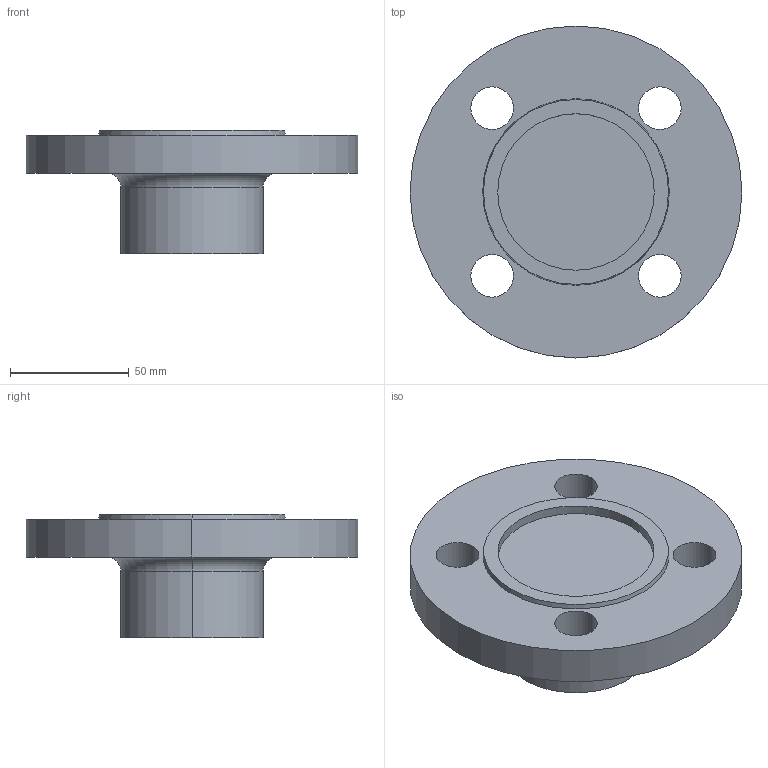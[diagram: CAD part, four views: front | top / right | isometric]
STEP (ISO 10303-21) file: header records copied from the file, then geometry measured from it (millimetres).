
FILE_DESCRIPTION (( 'STEP AP214' ), '1' );
FILE_NAME ('PN40 DN32 Type 21(i) - Type F Face.STEP', '2018-12-29T23:47:36', ( '' ), ( '' ), 'SwSTEP 2.0', 'SolidWorks 2019', '' );
FILE_SCHEMA (( 'AUTOMOTIVE_DESIGN' ));
Length unit declared in the file: millimetre
Products named in the file (1): PN40 DN32 Type 21(i) - Type F Face
Bounding box: 140 x 140 x 52 mm (x, y, z)
Volume: 323627.5 mm3; surface area: 46590.1 mm2
Topology: 1 solids, 1 shells, 23 faces, 52 edges, 34 vertices
Faces by surface type: cylinder 14, plane 5, torus 2, cone 2
Entity records: 716 total; most frequent: DIRECTION 136, CARTESIAN_POINT 110, ORIENTED_EDGE 104, AXIS2_PLACEMENT_3D 60, EDGE_CURVE 52, CIRCLE 36, VERTEX_POINT 34, EDGE_LOOP 34
